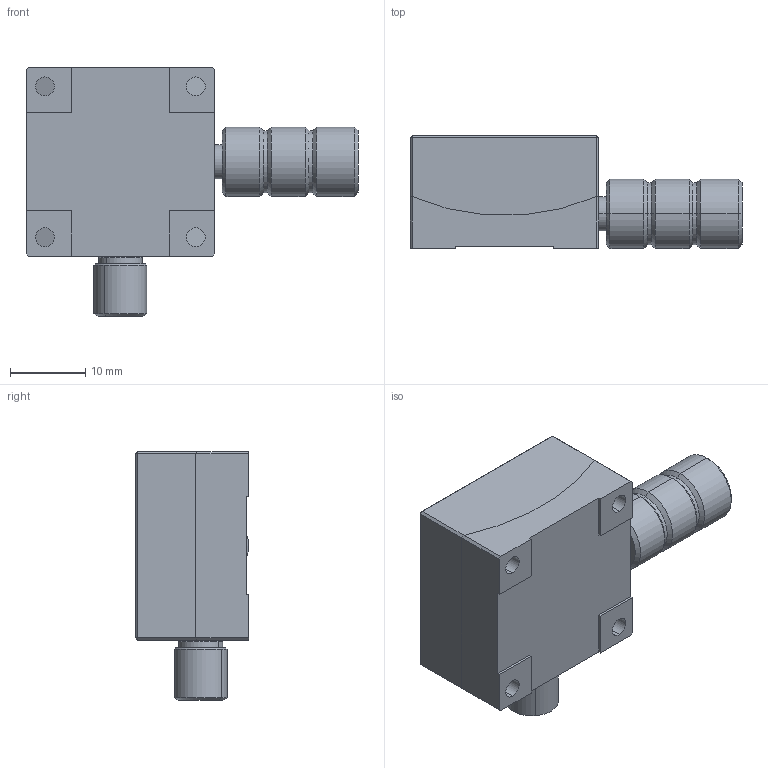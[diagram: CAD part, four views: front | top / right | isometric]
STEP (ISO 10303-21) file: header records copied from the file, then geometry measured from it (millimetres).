
FILE_DESCRIPTION (( 'STEP AP203' ), '1' );
FILE_NAME ('PT-SD2520.STEP', '2025-12-05T04:29:59', ( '' ), ( '' ), 'SwSTEP 2.0', 'SolidWorks 2025', '' );
FILE_SCHEMA (( 'CONFIG_CONTROL_DESIGN' ));
Length unit declared in the file: millimetre
Products named in the file (5): 2023-371-2.STEP; PT-SD2520; GFG2540-C20H15.STEP; 2023-371-1.STEP; _________1.STEP
Assembly tree (4 placements, depth 3):
  PT-SD2520
    GFG2540-C20H15.STEP
      2023-371-2.STEP
      2023-371-1.STEP
      _________1.STEP
Bounding box: 44 x 15 x 33 mm (x, y, z)
Volume: 10270.5 mm3; surface area: 5547.3 mm2
Topology: 3 solids, 3 shells, 169 faces, 382 edges, 217 vertices
Faces by surface type: cylinder 60, cone 60, plane 49
Entity records: 5263 total; most frequent: CARTESIAN_POINT 1010, DIRECTION 840, ORIENTED_EDGE 720, EDGE_CURVE 360, AXIS2_PLACEMENT_3D 319, VERTEX_POINT 217, LINE 202, VECTOR 202
